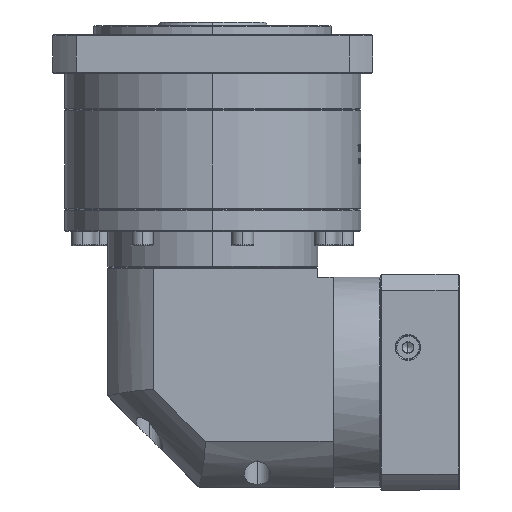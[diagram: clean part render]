
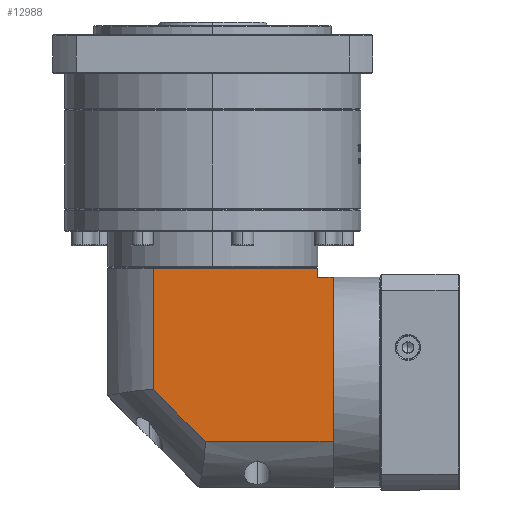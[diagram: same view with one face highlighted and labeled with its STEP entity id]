
A CAD part, left-side view. The second image highlights one B-rep face of the part: STEP entity #12988.
In plain terms, the highlighted planar face has unit normal (-1, 0, 0).
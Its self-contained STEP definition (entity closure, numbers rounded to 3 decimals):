
#3101 = VERTEX_POINT ( 'NONE', #93184 ) ;
#7963 = CARTESIAN_POINT ( 'NONE',  ( -242.999, -19.741, 80.111 ) ) ;
#9114 = VECTOR ( 'NONE', #65058, 1000. ) ;
#11314 = LINE ( 'NONE', #68470, #102776 ) ;
#12988 = ADVANCED_FACE ( 'NONE', ( #83911 ), #63153, .F. ) ;
#13854 = ORIENTED_EDGE ( 'NONE', *, *, #137551, .F. ) ;
#19254 = CARTESIAN_POINT ( 'NONE',  ( -242.999, -48.079, -14.789 ) ) ;
#22362 = CARTESIAN_POINT ( 'NONE',  ( -242.999, -109.641, 80.111 ) ) ;
#25914 = ORIENTED_EDGE ( 'NONE', *, *, #121811, .F. ) ;
#31619 = VERTEX_POINT ( 'NONE', #61171 ) ;
#32264 = CARTESIAN_POINT ( 'NONE',  ( -242.999, 5.359, -14.789 ) ) ;
#33427 = VERTEX_POINT ( 'NONE', #7963 ) ;
#35263 = VECTOR ( 'NONE', #35557, 1000. ) ;
#35557 = DIRECTION ( 'NONE',  ( 0., -1., 0. ) ) ;
#35880 = EDGE_LOOP ( 'NONE', ( #94710, #94583, #141377, #25914, #101359, #83419, #13854 ) ) ;
#40962 = VECTOR ( 'NONE', #43699, 1000. ) ;
#41176 = VECTOR ( 'NONE', #124374, 1000. ) ;
#41868 = CARTESIAN_POINT ( 'NONE',  ( -242.999, -118.041, 86.611 ) ) ;
#43699 = DIRECTION ( 'NONE',  ( 0., 0.707, 0.707 ) ) ;
#45089 = VERTEX_POINT ( 'NONE', #91907 ) ;
#49557 = CARTESIAN_POINT ( 'NONE',  ( -242.999, -118.041, -14.789 ) ) ;
#50299 = LINE ( 'NONE', #19254, #40962 ) ;
#58525 = EDGE_CURVE ( 'NONE', #3101, #83520, #80007, .T. ) ;
#60583 = VECTOR ( 'NONE', #80273, 1000. ) ;
#61171 = CARTESIAN_POINT ( 'NONE',  ( -242.999, -48.079, -14.789 ) ) ;
#63153 = PLANE ( 'NONE',  #136731 ) ;
#65058 = DIRECTION ( 'NONE',  ( 0., 0., 1. ) ) ;
#68038 = LINE ( 'NONE', #32264, #60583 ) ;
#68470 = CARTESIAN_POINT ( 'NONE',  ( -242.999, -109.641, 75.111 ) ) ;
#69614 = CARTESIAN_POINT ( 'NONE',  ( -242.999, -118.041, 75.111 ) ) ;
#71012 = LINE ( 'NONE', #41868, #41176 ) ;
#75106 = DIRECTION ( 'NONE',  ( 0., 1., 0. ) ) ;
#76965 = EDGE_CURVE ( 'NONE', #45089, #33427, #109274, .T. ) ;
#77122 = EDGE_CURVE ( 'NONE', #123284, #31619, #68038, .T. ) ;
#80007 = LINE ( 'NONE', #148573, #9114 ) ;
#80273 = DIRECTION ( 'NONE',  ( 0., 1., 0. ) ) ;
#83419 = ORIENTED_EDGE ( 'NONE', *, *, #58525, .T. ) ;
#83520 = VERTEX_POINT ( 'NONE', #22362 ) ;
#83911 = FACE_OUTER_BOUND ( 'NONE', #35880, .T. ) ;
#86591 = DIRECTION ( 'NONE',  ( 1., 0., 0. ) ) ;
#91907 = CARTESIAN_POINT ( 'NONE',  ( -242.999, -19.741, 13.549 ) ) ;
#93184 = CARTESIAN_POINT ( 'NONE',  ( -242.999, -109.641, 75.111 ) ) ;
#94583 = ORIENTED_EDGE ( 'NONE', *, *, #97067, .F. ) ;
#94710 = ORIENTED_EDGE ( 'NONE', *, *, #76965, .F. ) ;
#96673 = EDGE_CURVE ( 'NONE', #124817, #3101, #11314, .T. ) ;
#97067 = EDGE_CURVE ( 'NONE', #31619, #45089, #50299, .T. ) ;
#101359 = ORIENTED_EDGE ( 'NONE', *, *, #96673, .T. ) ;
#102776 = VECTOR ( 'NONE', #104493, 1000. ) ;
#104493 = DIRECTION ( 'NONE',  ( 0., 1., 0. ) ) ;
#109274 = LINE ( 'NONE', #127253, #144802 ) ;
#121811 = EDGE_CURVE ( 'NONE', #124817, #123284, #71012, .T. ) ;
#123284 = VERTEX_POINT ( 'NONE', #49557 ) ;
#124374 = DIRECTION ( 'NONE',  ( 0., 0., -1. ) ) ;
#124817 = VERTEX_POINT ( 'NONE', #69614 ) ;
#127253 = CARTESIAN_POINT ( 'NONE',  ( -242.999, -19.741, 86.611 ) ) ;
#132325 = LINE ( 'NONE', #143617, #35263 ) ;
#136731 = AXIS2_PLACEMENT_3D ( 'NONE', #145162, #86591, #75106 ) ;
#137551 = EDGE_CURVE ( 'NONE', #33427, #83520, #132325, .T. ) ;
#141377 = ORIENTED_EDGE ( 'NONE', *, *, #77122, .F. ) ;
#143617 = CARTESIAN_POINT ( 'NONE',  ( -242.999, 5.359, 80.111 ) ) ;
#144802 = VECTOR ( 'NONE', #149777, 1000. ) ;
#145162 = CARTESIAN_POINT ( 'NONE',  ( -242.999, 5.359, 86.611 ) ) ;
#148573 = CARTESIAN_POINT ( 'NONE',  ( -242.999, -109.641, -39.889 ) ) ;
#149777 = DIRECTION ( 'NONE',  ( 0., 0., 1. ) ) ;
